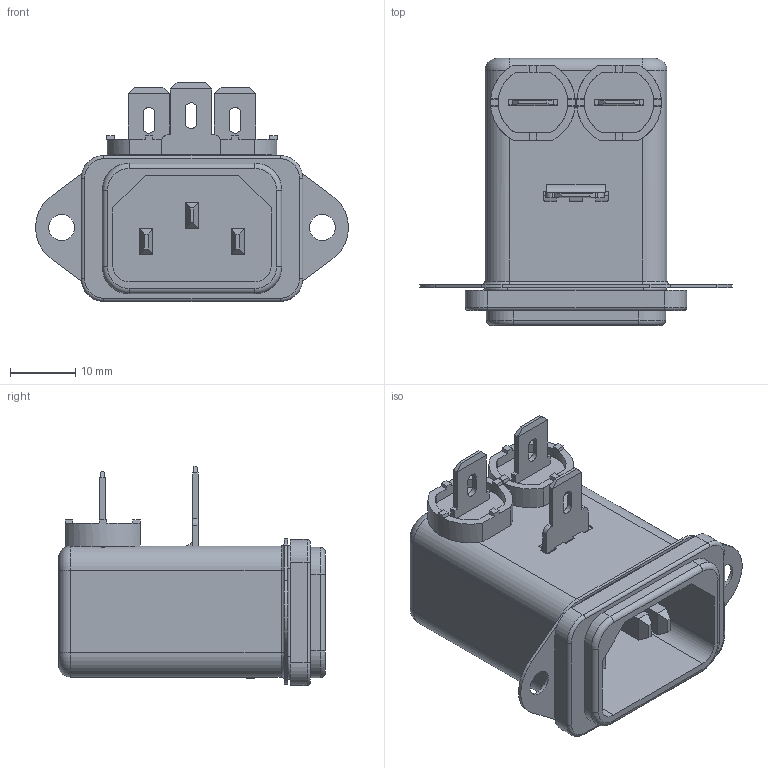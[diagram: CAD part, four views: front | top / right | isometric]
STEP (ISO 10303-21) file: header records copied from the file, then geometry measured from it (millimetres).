
FILE_DESCRIPTION((''),'2;1');
FILE_NAME('D:\_ PRODUCT\New project\3D request\FN9226\FN9226.stp','2012-11-29T10:56:24',('sayan.penton'),(''),'Autodesk Inventor 2010','Autodesk Inventor 2010','');
FILE_SCHEMA(('AUTOMOTIVE_DESIGN { 1 0 10303 214 1 1 1 1 }'));
Length unit declared in the file: millimetre
Products named in the file (1): Part1
Bounding box: 47.96 x 40.95 x 33.6 mm (x, y, z)
Volume: 17057.8 mm3; surface area: 11442.3 mm2
Topology: 1 solids, 1 shells, 670 faces, 1857 edges, 1193 vertices
Faces by surface type: plane 322, cylinder 166, bspline 157, torus 25
Full cylindrical faces by diameter (mm): 4 x2
Entity records: 30093 total; most frequent: CARTESIAN_POINT 12737, ORIENTED_EDGE 3710, DIRECTION 3182, EDGE_CURVE 1855, VECTOR 1258, LINE 1258, VERTEX_POINT 1193, AXIS2_PLACEMENT_3D 962
